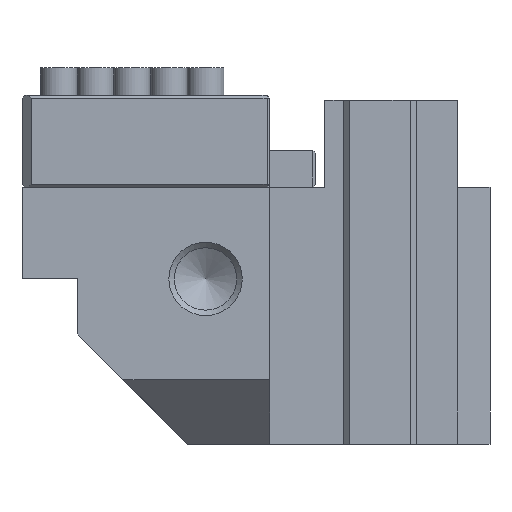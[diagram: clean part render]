
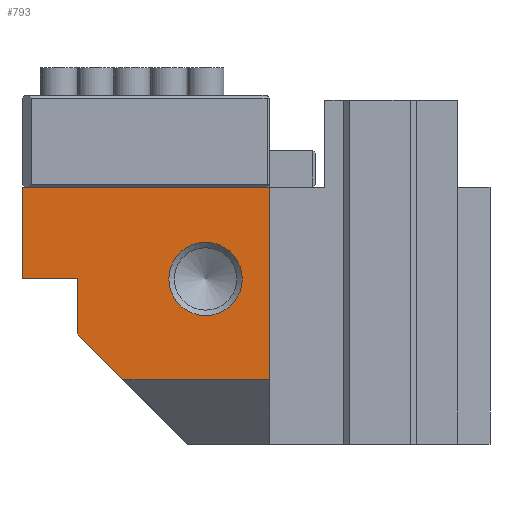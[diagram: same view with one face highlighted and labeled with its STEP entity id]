
A CAD part, left-side view. The second image highlights one B-rep face of the part: STEP entity #793.
In plain terms, the highlighted planar face has unit normal (-1, 0, 0).
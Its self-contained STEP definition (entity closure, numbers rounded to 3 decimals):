
#247 = DIRECTION ( 'NONE',  ( 0., 0., 1. ) ) ;
#280 = ORIENTED_EDGE ( 'NONE', *, *, #8863, .F. ) ;
#299 = CARTESIAN_POINT ( 'NONE',  ( -38.5, 65., -0.75 ) ) ;
#434 = DIRECTION ( 'NONE',  ( -1., 0., 0. ) ) ;
#728 = FACE_BOUND ( 'NONE', #7084, .T. ) ;
#793 = ADVANCED_FACE ( 'NONE', ( #728, #9189 ), #5483, .T. ) ;
#900 = CARTESIAN_POINT ( 'NONE',  ( -38.5, 65., 9.25 ) ) ;
#924 = LINE ( 'NONE', #3107, #9594 ) ;
#962 = DIRECTION ( 'NONE',  ( 0., 0., 1. ) ) ;
#1164 = CARTESIAN_POINT ( 'NONE',  ( -38.5, 45., -0.75 ) ) ;
#1221 = EDGE_CURVE ( 'NONE', #1604, #4522, #1591, .T. ) ;
#1281 = CARTESIAN_POINT ( 'NONE',  ( -38.5, 38., 9.25 ) ) ;
#1288 = VECTOR ( 'NONE', #962, 1000. ) ;
#1570 = DIRECTION ( 'NONE',  ( 0., 1., 0. ) ) ;
#1591 = LINE ( 'NONE', #3083, #6633 ) ;
#1604 = VERTEX_POINT ( 'NONE', #2284 ) ;
#1806 = ORIENTED_EDGE ( 'NONE', *, *, #7438, .F. ) ;
#1954 = ORIENTED_EDGE ( 'NONE', *, *, #2688, .T. ) ;
#1981 = DIRECTION ( 'NONE',  ( 0., -1., 0. ) ) ;
#2021 = AXIS2_PLACEMENT_3D ( 'NONE', #1164, #5726, #7988 ) ;
#2242 = DIRECTION ( 'NONE',  ( 0., -1., 0. ) ) ;
#2284 = CARTESIAN_POINT ( 'NONE',  ( -38.5, 54., -11.75 ) ) ;
#2688 = EDGE_CURVE ( 'NONE', #4522, #4464, #7311, .T. ) ;
#2785 = CARTESIAN_POINT ( 'NONE',  ( -38.5, 38., -18.75 ) ) ;
#3083 = CARTESIAN_POINT ( 'NONE',  ( -38.5, 38., -11.75 ) ) ;
#3099 = EDGE_CURVE ( 'NONE', #1604, #3498, #5144, .T. ) ;
#3107 = CARTESIAN_POINT ( 'NONE',  ( -38.5, 65., -0.75 ) ) ;
#3181 = VECTOR ( 'NONE', #7519, 1000. ) ;
#3498 = VERTEX_POINT ( 'NONE', #7169 ) ;
#4055 = EDGE_CURVE ( 'NONE', #8832, #4152, #924, .T. ) ;
#4152 = VERTEX_POINT ( 'NONE', #299 ) ;
#4337 = VERTEX_POINT ( 'NONE', #900 ) ;
#4464 = VERTEX_POINT ( 'NONE', #1281 ) ;
#4499 = VECTOR ( 'NONE', #1981, 1000. ) ;
#4522 = VERTEX_POINT ( 'NONE', #5946 ) ;
#4718 = CARTESIAN_POINT ( 'NONE',  ( -38.5, 65., 9.25 ) ) ;
#4820 = ORIENTED_EDGE ( 'NONE', *, *, #5796, .F. ) ;
#4849 = LINE ( 'NONE', #6311, #9464 ) ;
#5115 = ORIENTED_EDGE ( 'NONE', *, *, #9022, .F. ) ;
#5144 = LINE ( 'NONE', #8102, #3181 ) ;
#5483 = PLANE ( 'NONE',  #7664 ) ;
#5712 = ORIENTED_EDGE ( 'NONE', *, *, #3099, .F. ) ;
#5726 = DIRECTION ( 'NONE',  ( -1., 0., 0. ) ) ;
#5796 = EDGE_CURVE ( 'NONE', #4337, #4464, #9454, .T. ) ;
#5926 = ORIENTED_EDGE ( 'NONE', *, *, #4055, .F. ) ;
#5946 = CARTESIAN_POINT ( 'NONE',  ( -38.5, 38., -11.75 ) ) ;
#6311 = CARTESIAN_POINT ( 'NONE',  ( -38.5, 59., -0.75 ) ) ;
#6433 = DIRECTION ( 'NONE',  ( 0., 0., 1. ) ) ;
#6633 = VECTOR ( 'NONE', #2242, 1000. ) ;
#6660 = VECTOR ( 'NONE', #6433, 1000. ) ;
#6889 = VERTEX_POINT ( 'NONE', #7500 ) ;
#7074 = LINE ( 'NONE', #4718, #1288 ) ;
#7084 = EDGE_LOOP ( 'NONE', ( #1806 ) ) ;
#7129 = CARTESIAN_POINT ( 'NONE',  ( -38.5, 14., 9.25 ) ) ;
#7169 = CARTESIAN_POINT ( 'NONE',  ( -38.5, 59., -6.75 ) ) ;
#7311 = LINE ( 'NONE', #2785, #6660 ) ;
#7438 = EDGE_CURVE ( 'NONE', #6889, #6889, #9709, .T. ) ;
#7500 = CARTESIAN_POINT ( 'NONE',  ( -38.5, 45., 3.25 ) ) ;
#7519 = DIRECTION ( 'NONE',  ( 0., 0.707, 0.707 ) ) ;
#7664 = AXIS2_PLACEMENT_3D ( 'NONE', #7129, #434, #247 ) ;
#7723 = EDGE_LOOP ( 'NONE', ( #5712, #8898, #1954, #4820, #280, #5926, #5115 ) ) ;
#7739 = CARTESIAN_POINT ( 'NONE',  ( -38.5, 59., -0.75 ) ) ;
#7988 = DIRECTION ( 'NONE',  ( 0., 0., 1. ) ) ;
#8102 = CARTESIAN_POINT ( 'NONE',  ( -38.5, 47., -18.75 ) ) ;
#8687 = CARTESIAN_POINT ( 'NONE',  ( -38.5, 32., 9.25 ) ) ;
#8832 = VERTEX_POINT ( 'NONE', #7739 ) ;
#8863 = EDGE_CURVE ( 'NONE', #4152, #4337, #7074, .T. ) ;
#8898 = ORIENTED_EDGE ( 'NONE', *, *, #1221, .T. ) ;
#9022 = EDGE_CURVE ( 'NONE', #3498, #8832, #4849, .T. ) ;
#9189 = FACE_OUTER_BOUND ( 'NONE', #7723, .T. ) ;
#9211 = DIRECTION ( 'NONE',  ( 0., 0., 1. ) ) ;
#9454 = LINE ( 'NONE', #8687, #4499 ) ;
#9464 = VECTOR ( 'NONE', #9211, 1000. ) ;
#9594 = VECTOR ( 'NONE', #1570, 1000. ) ;
#9709 = CIRCLE ( 'NONE', #2021, 4. ) ;
